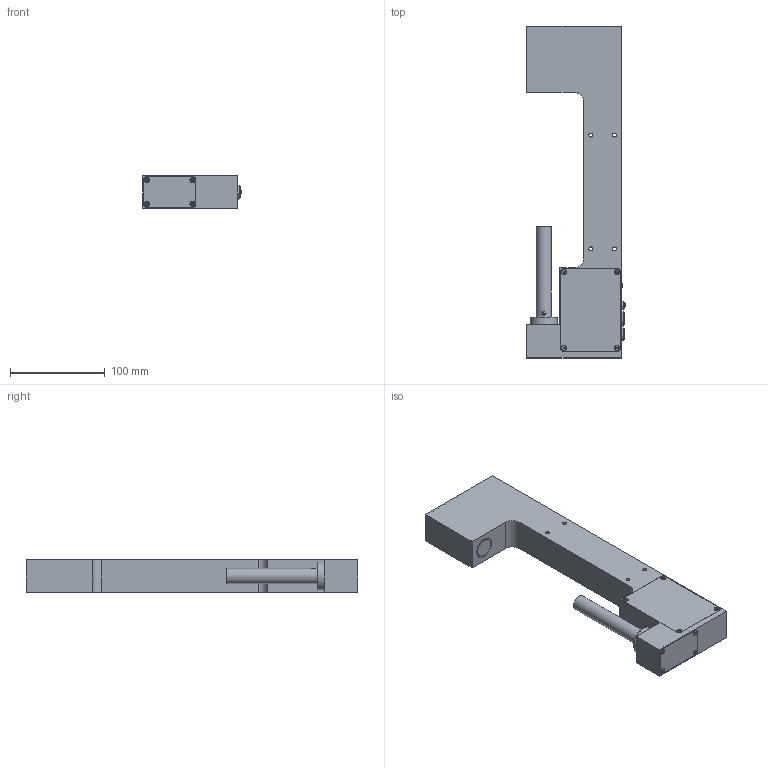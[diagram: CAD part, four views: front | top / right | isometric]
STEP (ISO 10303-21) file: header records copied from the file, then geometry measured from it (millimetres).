
FILE_DESCRIPTION(/* description */ (''),/* implementation_level */ '2;1');
FILE_NAME(/* name */ 'H:\ZVW\Inventor\E-Mail-Zeichnungen\STEP\L-LAS-TB-F-150_60-MO-4x_0895_00.stp',/* time_stamp */ '2014-01-16T11:37:22+01:00',/* author */ ('TK-01'),/* organization */ (''),/* preprocessor_version */ 'ST-DEVELOPER v15.2',/* originating_system */ 'Autodesk Inventor 2014',/* authorisation */ '');
FILE_SCHEMA (('AUTOMOTIVE_DESIGN { 1 0 10303 214 3 1 1 }'));
Length unit declared in the file: millimetre
Products named in the file (1): Bauteil4
Bounding box: 104 x 350 x 34 mm (x, y, z)
Volume: 757116.3 mm3; surface area: 93647.5 mm2
Topology: 1 solids, 7 shells, 751 faces, 1988 edges, 1330 vertices
Faces by surface type: plane 349, cylinder 312, cone 74, bspline 10, sphere 5, torus 1
Full cylindrical faces by diameter (mm): 0.5 x19, 2.4 x1, 2.5 x12, 2.6 x1, 2.9 x12, 3 x4, 3.1 x4, 4 x1, 4.134 x7, 4.5 x1, 5 x14, 6 x1, 7 x1, 7.05 x1, 7.1 x1, 7.3 x1, 9 x2, 12 x1, 12.7 x1, 16 x1, 19 x1, 19.1 x1, 22 x1, 22.05 x1, 24.2 x1, 24.536 x1, 29 x1
Entity records: 25593 total; most frequent: CARTESIAN_POINT 7671, ORIENTED_EDGE 3516, DIRECTION 3381, EDGE_CURVE 1758, AXIS2_PLACEMENT_3D 1300, VERTEX_POINT 1262, EDGE_LOOP 1000, LINE 781
